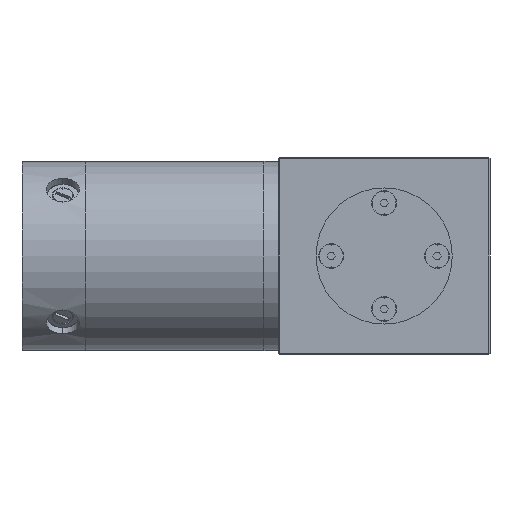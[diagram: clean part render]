
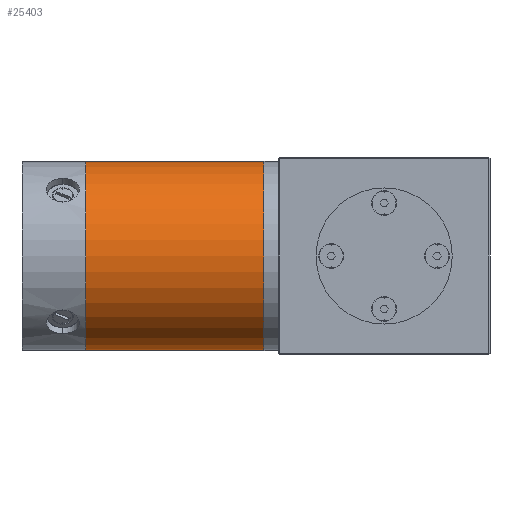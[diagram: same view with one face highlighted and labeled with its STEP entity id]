
A CAD part, left-side view. The second image highlights one B-rep face of the part: STEP entity #25403.
In plain terms, the highlighted cylindrical face has radius 39.685 mm (diameter 79.37 mm), a partial arc.
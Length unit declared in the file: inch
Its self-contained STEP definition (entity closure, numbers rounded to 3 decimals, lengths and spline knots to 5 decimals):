
#171 = VERTEX_POINT ( 'NONE', #26033 ) ;
#1897 = CARTESIAN_POINT ( 'NONE',  ( 9.26851, 6.68661, 0.0626 ) ) ;
#2281 = ORIENTED_EDGE ( 'NONE', *, *, #28462, .F. ) ;
#3170 = EDGE_CURVE ( 'NONE', #6333, #10095, #40919, .T. ) ;
#5521 = CIRCLE ( 'NONE', #34557, 1.5624 ) ;
#6333 = VERTEX_POINT ( 'NONE', #15514 ) ;
#7156 = ORIENTED_EDGE ( 'NONE', *, *, #15756, .T. ) ;
#7585 = AXIS2_PLACEMENT_3D ( 'NONE', #16678, #11966, #41224 ) ;
#9909 = VECTOR ( 'NONE', #33483, 39.37008 ) ;
#10095 = VERTEX_POINT ( 'NONE', #1897 ) ;
#11966 = DIRECTION ( 'NONE',  ( 0., -1., 0. ) ) ;
#12625 = CARTESIAN_POINT ( 'NONE',  ( 9.26851, 6.68661, 1.625 ) ) ;
#13310 = VECTOR ( 'NONE', #45781, 39.37008 ) ;
#13500 = DIRECTION ( 'NONE',  ( 0., 0., -1. ) ) ;
#14209 = VERTEX_POINT ( 'NONE', #49497 ) ;
#15514 = CARTESIAN_POINT ( 'NONE',  ( 9.26851, 6.68661, 3.1874 ) ) ;
#15756 = EDGE_CURVE ( 'NONE', #171, #14209, #5521, .T. ) ;
#16678 = CARTESIAN_POINT ( 'NONE',  ( 9.26851, 19692.77598, 1.625 ) ) ;
#16984 = DIRECTION ( 'NONE',  ( 0., 1., 0. ) ) ;
#19042 = ORIENTED_EDGE ( 'NONE', *, *, #40422, .T. ) ;
#20949 = LINE ( 'NONE', #29163, #9909 ) ;
#23020 = CYLINDRICAL_SURFACE ( 'NONE', #7585, 1.5624 ) ;
#24131 = EDGE_LOOP ( 'NONE', ( #42791, #19042, #7156, #2281 ) ) ;
#25403 = ADVANCED_FACE ( 'NONE', ( #45029 ), #23020, .T. ) ;
#26033 = CARTESIAN_POINT ( 'NONE',  ( 9.26851, 3.73622, 0.0626 ) ) ;
#28462 = EDGE_CURVE ( 'NONE', #6333, #14209, #20949, .T. ) ;
#28964 = DIRECTION ( 'NONE',  ( 0., -1., 0. ) ) ;
#29163 = CARTESIAN_POINT ( 'NONE',  ( 9.26851, 19692.77598, 3.1874 ) ) ;
#32953 = CARTESIAN_POINT ( 'NONE',  ( 9.26851, 19692.77598, 0.0626 ) ) ;
#33483 = DIRECTION ( 'NONE',  ( 0., -1., 0. ) ) ;
#34557 = AXIS2_PLACEMENT_3D ( 'NONE', #41716, #16984, #13500 ) ;
#40422 = EDGE_CURVE ( 'NONE', #10095, #171, #50825, .T. ) ;
#40919 = CIRCLE ( 'NONE', #52702, 1.5624 ) ;
#41224 = DIRECTION ( 'NONE',  ( 0., 0., 1. ) ) ;
#41716 = CARTESIAN_POINT ( 'NONE',  ( 9.26851, 3.73622, 1.625 ) ) ;
#42791 = ORIENTED_EDGE ( 'NONE', *, *, #3170, .T. ) ;
#45029 = FACE_OUTER_BOUND ( 'NONE', #24131, .T. ) ;
#45781 = DIRECTION ( 'NONE',  ( 0., -1., 0. ) ) ;
#49497 = CARTESIAN_POINT ( 'NONE',  ( 9.26851, 3.73622, 3.1874 ) ) ;
#49532 = DIRECTION ( 'NONE',  ( 0., 0., 1. ) ) ;
#50825 = LINE ( 'NONE', #32953, #13310 ) ;
#52702 = AXIS2_PLACEMENT_3D ( 'NONE', #12625, #28964, #49532 ) ;
